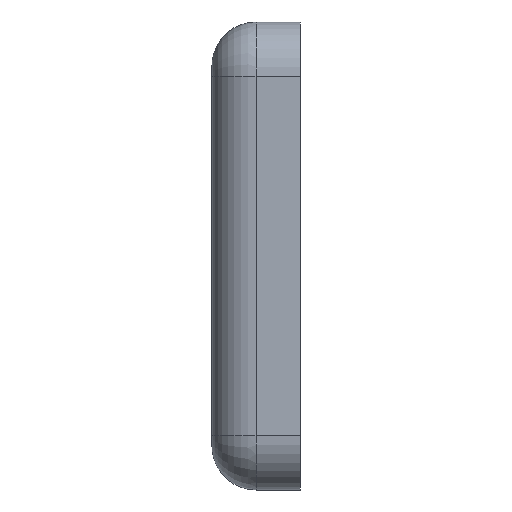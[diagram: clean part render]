
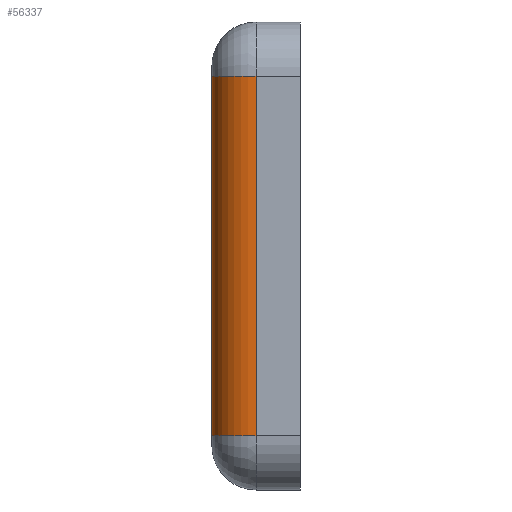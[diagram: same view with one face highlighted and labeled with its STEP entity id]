
A CAD part, left-side view. The second image highlights one B-rep face of the part: STEP entity #56337.
In plain terms, the highlighted cylindrical face has radius 19.05 mm (diameter 38.1 mm), a partial arc.
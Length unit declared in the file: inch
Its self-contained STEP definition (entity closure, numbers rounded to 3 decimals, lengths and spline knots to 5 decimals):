
#2202 = CARTESIAN_POINT ( 'NONE',  ( -6.2291, 0.75, 3.055 ) ) ;
#3029 = VECTOR ( 'NONE', #56609, 39.37008 ) ;
#3095 = AXIS2_PLACEMENT_3D ( 'NONE', #59648, #25576, #65360 ) ;
#4993 = AXIS2_PLACEMENT_3D ( 'NONE', #42180, #8030, #47895 ) ;
#6367 = DIRECTION ( 'NONE',  ( 0., 0., -1. ) ) ;
#8030 = DIRECTION ( 'NONE',  ( 0., 0., 1. ) ) ;
#8824 = EDGE_CURVE ( 'NONE', #8877, #32727, #10992, .T. ) ;
#8877 = VERTEX_POINT ( 'NONE', #27319 ) ;
#10992 = LINE ( 'NONE', #55654, #39556 ) ;
#17866 = DIRECTION ( 'NONE',  ( -1., 0., 0. ) ) ;
#19403 = ORIENTED_EDGE ( 'NONE', *, *, #8824, .F. ) ;
#20767 = CYLINDRICAL_SURFACE ( 'NONE', #33899, 0.75 ) ;
#21556 = DIRECTION ( 'NONE',  ( 0., 0., 1. ) ) ;
#25576 = DIRECTION ( 'NONE',  ( 0., 0., -1. ) ) ;
#26413 = VERTEX_POINT ( 'NONE', #58155 ) ;
#27258 = CARTESIAN_POINT ( 'NONE',  ( -6.2291, 0.75, -3.055 ) ) ;
#27319 = CARTESIAN_POINT ( 'NONE',  ( -5.4791, 1.5, -3.055 ) ) ;
#32727 = VERTEX_POINT ( 'NONE', #67863 ) ;
#33899 = AXIS2_PLACEMENT_3D ( 'NONE', #46000, #6367, #17866 ) ;
#35539 = VERTEX_POINT ( 'NONE', #2202 ) ;
#36097 = CIRCLE ( 'NONE', #4993, 0.75 ) ;
#39556 = VECTOR ( 'NONE', #21556, 39.37008 ) ;
#42180 = CARTESIAN_POINT ( 'NONE',  ( -5.4791, 0.75, 3.055 ) ) ;
#45657 = EDGE_CURVE ( 'NONE', #35539, #26413, #46781, .T. ) ;
#46000 = CARTESIAN_POINT ( 'NONE',  ( -5.4791, 0.75, -3.055 ) ) ;
#46719 = ORIENTED_EDGE ( 'NONE', *, *, #48137, .F. ) ;
#46781 = LINE ( 'NONE', #27258, #3029 ) ;
#47895 = DIRECTION ( 'NONE',  ( 1., 0., 0. ) ) ;
#48137 = EDGE_CURVE ( 'NONE', #32727, #35539, #36097, .T. ) ;
#50812 = ORIENTED_EDGE ( 'NONE', *, *, #51427, .F. ) ;
#51103 = FACE_OUTER_BOUND ( 'NONE', #69052, .T. ) ;
#51427 = EDGE_CURVE ( 'NONE', #26413, #8877, #62880, .T. ) ;
#55654 = CARTESIAN_POINT ( 'NONE',  ( -5.4791, 1.5, 3.055 ) ) ;
#55849 = ORIENTED_EDGE ( 'NONE', *, *, #45657, .F. ) ;
#56337 = ADVANCED_FACE ( 'NONE', ( #51103 ), #20767, .T. ) ;
#56609 = DIRECTION ( 'NONE',  ( 0., 0., -1. ) ) ;
#58155 = CARTESIAN_POINT ( 'NONE',  ( -6.2291, 0.75, -3.055 ) ) ;
#59648 = CARTESIAN_POINT ( 'NONE',  ( -5.4791, 0.75, -3.055 ) ) ;
#62880 = CIRCLE ( 'NONE', #3095, 0.75 ) ;
#65360 = DIRECTION ( 'NONE',  ( -1., 0., 0. ) ) ;
#67863 = CARTESIAN_POINT ( 'NONE',  ( -5.4791, 1.5, 3.055 ) ) ;
#69052 = EDGE_LOOP ( 'NONE', ( #50812, #55849, #46719, #19403 ) ) ;
